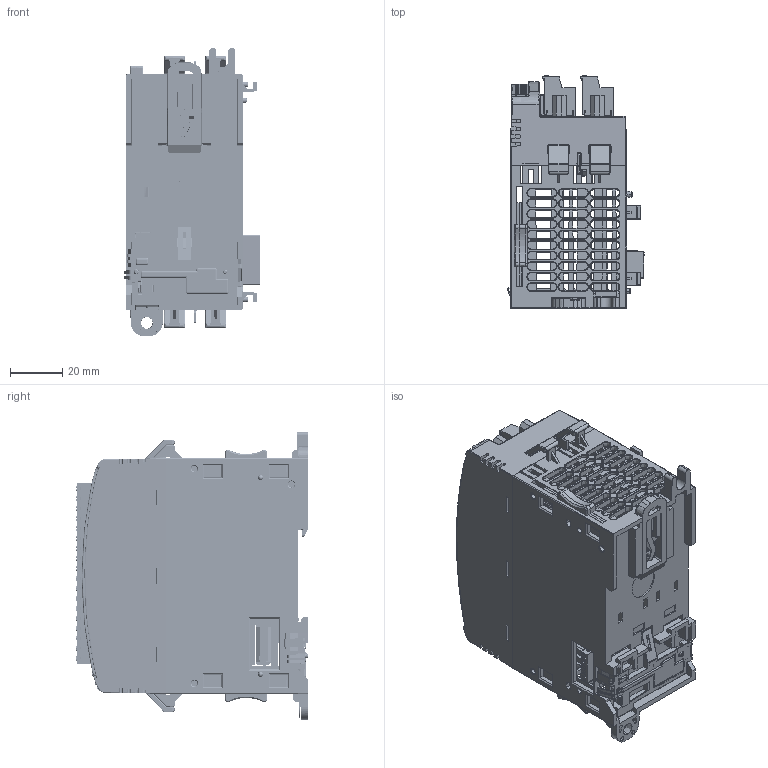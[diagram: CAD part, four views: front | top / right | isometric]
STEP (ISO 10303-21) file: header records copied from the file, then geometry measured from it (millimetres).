
FILE_DESCRIPTION (( 'STEP AP203' ), '1' );
FILE_NAME ('2085-IF8U.STEP', '2021-12-30T01:42:40', ( '' ), ( '' ), 'SwSTEP 2.0', 'SolidWorks 2021', '' );
FILE_SCHEMA (( 'CONFIG_CONTROL_DESIGN' ));
Length unit declared in the file: millimetre
Products named in the file (13): TFM_110_11_H_D; EB1388-18-500.stp; 2-EB1388-18-500.stp; TFM_110_11_H_D_5; SFM_110_01_L_D_3; SFM_110_01_L_D; 1400236-01.stp; TFM_110_11_H_D_3; SFM_110_01_L_D_5; 2085_TERMINAL_PLUGS; 2085-IF8U; 2085-BASE.stp; 2085_LED
Assembly tree (12 placements, depth 3):
  2085-IF8U
    2085-BASE.stp
    1400236-01.stp
    TFM_110_11_H_D
      TFM_110_11_H_D_3
      TFM_110_11_H_D_5
    SFM_110_01_L_D
      SFM_110_01_L_D_3
      SFM_110_01_L_D_5
    2085_TERMINAL_PLUGS
      EB1388-18-500.stp
      2-EB1388-18-500.stp
    2085_LED
Bounding box: 52.2 x 88.8 x 110 mm (x, y, z)
Volume: 43593.2 mm3; surface area: 87952.3 mm2
Topology: 10 solids, 85 shells, 7996 faces, 22345 edges, 14596 vertices
Faces by surface type: plane 6001, bspline 1076, cylinder 824, cone 72, sphere 18, torus 5
Entity records: 319576 total; most frequent: CARTESIAN_POINT 131155, ORIENTED_EDGE 44620, DIRECTION 29124, EDGE_CURVE 22316, VERTEX_POINT 14596, VECTOR 13070, LINE 13070, EDGE_LOOP 8663
